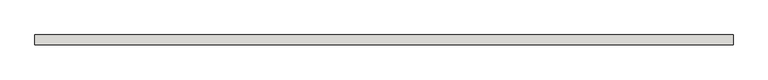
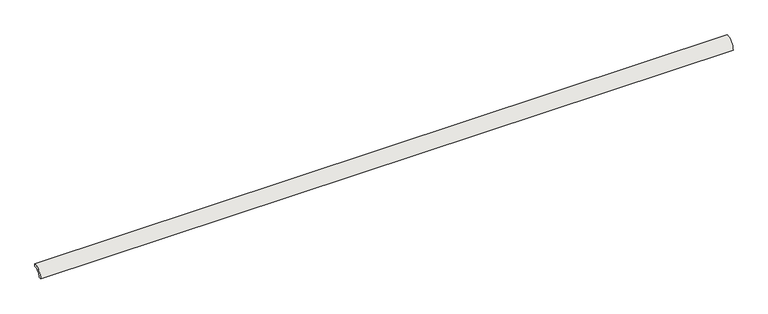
"""IFC4 building model written with IfcOpenShell, lengths in millimetres: slab geometry, ROSA GRES_138 : Pieza 138_Aqua_Marino_Anti-Slip."""

from ifc_helpers import new_model, si_unit, point, frame, frame_2d, origin, origin_2d, place, context, project, spatial, polyline, circle_curve, trimmed, segment, composite_curve, outline, extrude, source, transform, mapped, element, save


def slab_a917c221(model_context):
    return source(origin(), model_context, "Body", "SweptSolid", [
        extrude(outline(composite_curve([segment(polyline([(0.0, 40.0), (0.0, 30.0265886)]), True, "CONTINUOUS"), segment(trimmed(circle_curve(frame_2d((-0.0044453, 0.0044453)), 30.0221435), [point((0.0, 30.0265886))], [point((-30.0265886, 0.0))], True, "CARTESIAN"), True, "CONTINUOUS"), segment(polyline([(-30.0265886, 0.0), (-40.0, 0.0)]), True, "CONTINUOUS"), segment(trimmed(circle_curve(origin_2d(), 40.0), [point((-40.0, 0.0))], [point((0.0, 40.0))], False, "CARTESIAN"), True, "CONTINUOUS")], self_intersect=False)), frame((0.0, 0.0, 0.0), z_axis=(1.0, 0.0, 0.0), x_axis=(0.0, 1.0, 0.0)), (0.0, 0.0, 1.0), 2775.0),
    ])


if __name__ == "__main__":
    model = new_model("IFC4")
    model_context = context("Model", 3, world=origin())
    ifc_project = project(units=[si_unit("LENGTHUNIT", "METRE", prefix="MILLI")], contexts=[model_context])
    site = spatial("IfcSite", under=ifc_project)
    building = spatial("IfcBuilding", under=site)
    placement = place(None, origin())
    slab_shape = slab_a917c221(model_context)
    element("IfcSlab", 1, ObjectType="ROSA GRES_138 : Pieza 138_Aqua_Marino_Anti-Slip", at=placement, inside=building, context=model_context, shape_type="MappedRepresentation", body=[
        mapped(slab_shape, transform((0.0, 0.0, 0.0), x_axis=(1.0, 0.0, 0.0), y_axis=(0.0, 1.0, 0.0), z_axis=(0.0, 0.0, 1.0))),
    ])
    save(model, "model.ifc")
